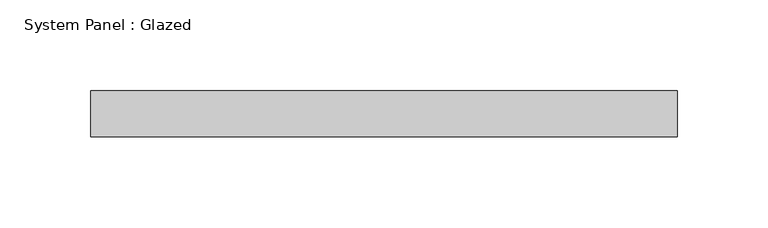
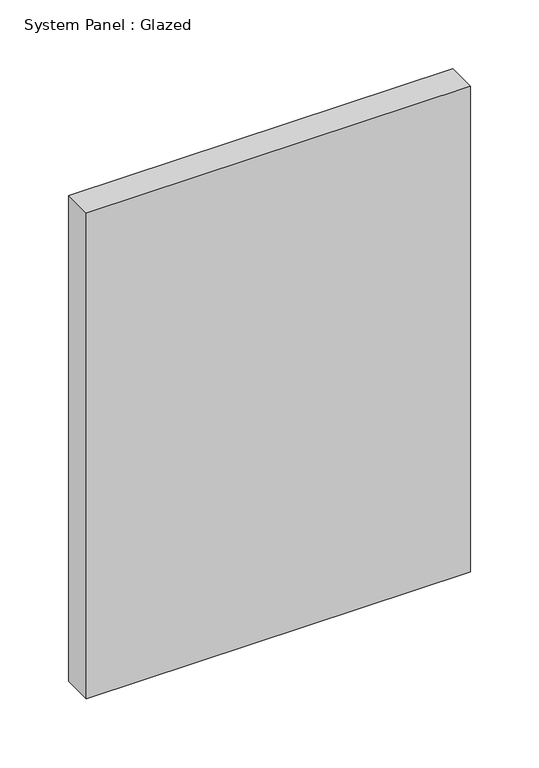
"""IFC4 building model written with IfcOpenShell, lengths in millimetres: plate geometry, System Panel : Glazed."""

from ifc_helpers import new_model, si_unit, origin, origin_with_axes, place, context, project, spatial, polyline, outline, extrude, source, transform, mapped, element, save


def system_panel_glazed_5fbbf350(model_context):
    return source(origin(), model_context, "Body", "SweptSolid", [
        extrude(outline(polyline([(161.517716, -44.45), (-161.517716, -44.45), (-161.517716, -19.05), (161.517716, -19.05), (161.517716, -44.45)])), origin_with_axes(), (0.0, 0.0, 1.0), 431.8),
    ])


if __name__ == "__main__":
    model = new_model("IFC4")
    model_context = context("Model", 3, world=origin())
    ifc_project = project(units=[si_unit("LENGTHUNIT", "METRE", prefix="MILLI")], contexts=[model_context])
    site = spatial("IfcSite", under=ifc_project)
    building = spatial("IfcBuilding", under=site)
    placement = place(None, origin())
    system_panel_glazed_shape = system_panel_glazed_5fbbf350(model_context)
    element("IfcPlate", 1, ObjectType="System Panel : Glazed", at=placement, inside=building, context=model_context, shape_type="MappedRepresentation", body=[
        mapped(system_panel_glazed_shape, transform((0.0, 0.0, 0.0), x_axis=(1.0, 0.0, 0.0), y_axis=(0.0, 1.0, 0.0), z_axis=(0.0, 0.0, 1.0))),
    ])
    save(model, "model.ifc")
